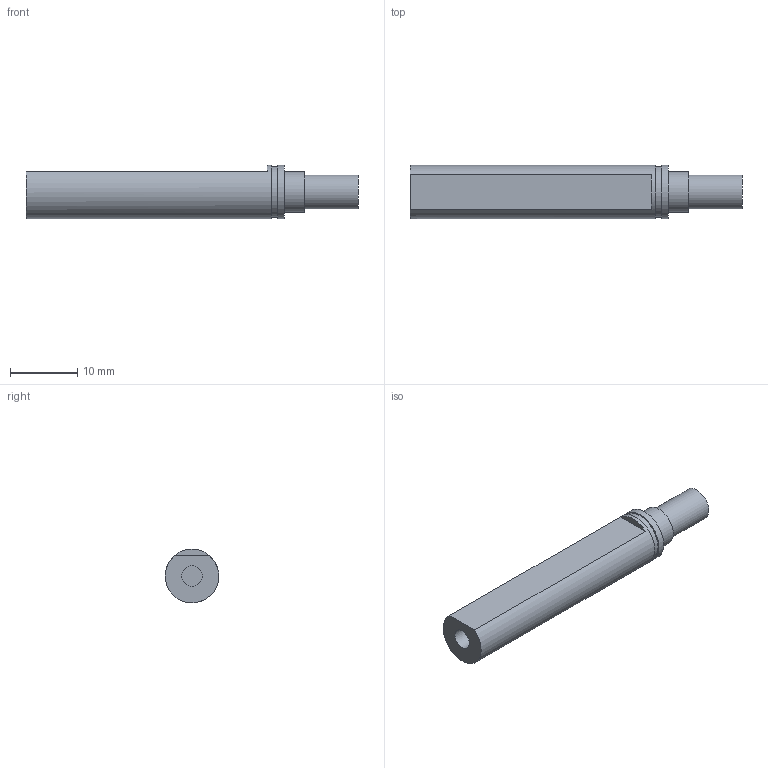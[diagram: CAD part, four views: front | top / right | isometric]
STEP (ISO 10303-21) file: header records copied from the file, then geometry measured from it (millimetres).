
FILE_DESCRIPTION(('Open CASCADE Model'),'2;1');
FILE_NAME('Open CASCADE Shape Model','2026-11-02T23:22:40',('Author'),( 'Open CASCADE'),'Open CASCADE STEP processor 7.9','Open CASCADE 7.9' ,'Unknown');
FILE_SCHEMA(('AUTOMOTIVE_DESIGN { 1 0 10303 214 1 1 1 1 }'));
Length unit declared in the file: millimetre
Products named in the file (1): Open CASCADE STEP translator 7.9 7
Bounding box: 49.5 x 8 x 8 mm (x, y, z)
Volume: 1991 mm3; surface area: 1308.4 mm2
Topology: 1 solids, 1 shells, 15 faces, 24 edges, 16 vertices
Faces by surface type: plane 9, cylinder 6
Full cylindrical faces by diameter (mm): 3.05 x1, 5 x1, 6 x1, 7.6 x1, 8 x2
Entity records: 686 total; most frequent: CARTESIAN_POINT 146, DIRECTION 106, ORIENTED_EDGE 48, PCURVE 48, DEFINITIONAL_REPRESENTATION 48, LINE 38, VECTOR 38, AXIS2_PLACEMENT_3D 30
